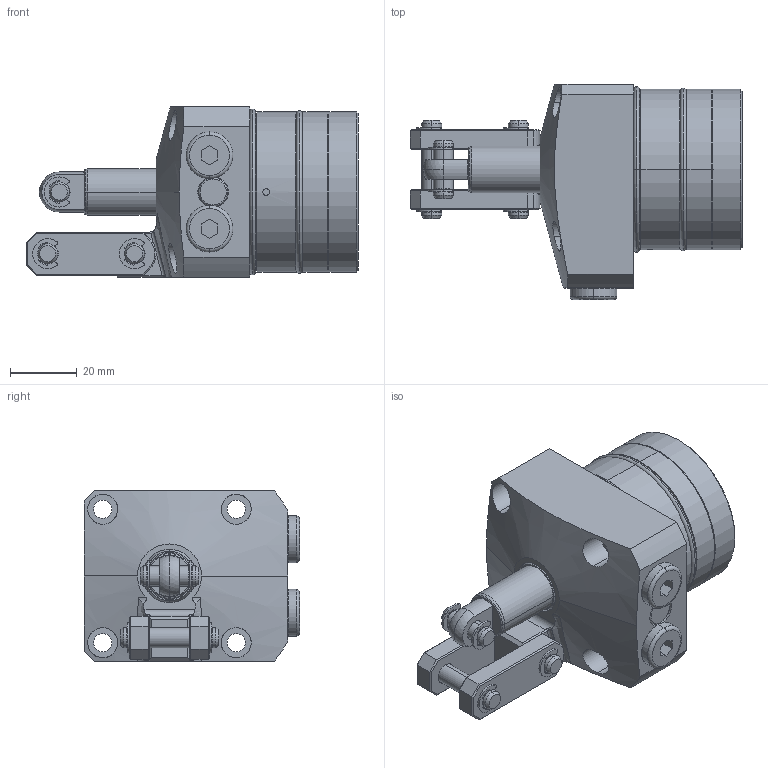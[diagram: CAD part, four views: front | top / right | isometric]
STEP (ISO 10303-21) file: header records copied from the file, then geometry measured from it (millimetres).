
FILE_DESCRIPTION(/* description */ (''),/* implementation_level */ '2;1');
FILE_NAME(/* name */ 'KTPW48-LH.stp',/* time_stamp */ '2022-11-19T16:40:40+08:00',/* author */ (''),/* organization */ (''),/* preprocessor_version */ 'ST-DEVELOPER v16.7',/* originating_system */ 'SIEMENS PLM Software NX 12.0',/* authorisation */ '');
FILE_SCHEMA (('AP203_CONFIGURATION_CONTROLLED_3D_DESIGN_OF_MECHANICAL_PARTS_AND_ASSEMBLIES_MIM_LF { 1 0 10303 403 2 1 2}'));
Length unit declared in the file: millimetre
Products named in the file (10): KTPW48-LH-03; KTPW48-LH-07; KTPW48-LH-06; KTPW48-LH-02; KTPW48-LH-08; KTPW48-LH-01; KTPW48-LH-05; KTPW48-LH-04; KTPW48-LH-09; KTPC48-LH_stp
Assembly tree (19 placements, depth 2):
  KTPC48-LH_stp
    KTPW48-LH-09  x3
    KTPW48-LH-04  x2
    KTPW48-LH-05
    KTPW48-LH-01
    KTPW48-LH-08  x6
    KTPW48-LH-02
    KTPW48-LH-06  x2
    KTPW48-LH-07  x2
    KTPW48-LH-03
Bounding box: 99.5 x 64.5 x 51 mm (x, y, z)
Volume: 142708.6 mm3; surface area: 35459.5 mm2
Topology: 21 solids, 21 shells, 657 faces, 1518 edges, 937 vertices
Faces by surface type: cylinder 258, plane 195, torus 116, cone 78, bspline 8, sphere 2
Full cylindrical faces by diameter (mm): 48 x1
Entity records: 12429 total; most frequent: CARTESIAN_POINT 2695, DIRECTION 1919, ORIENTED_EDGE 1598, AXIS2_PLACEMENT_3D 805, EDGE_CURVE 799, VERTEX_POINT 484, CIRCLE 428, EDGE_LOOP 415
